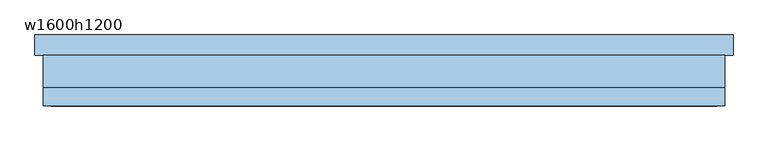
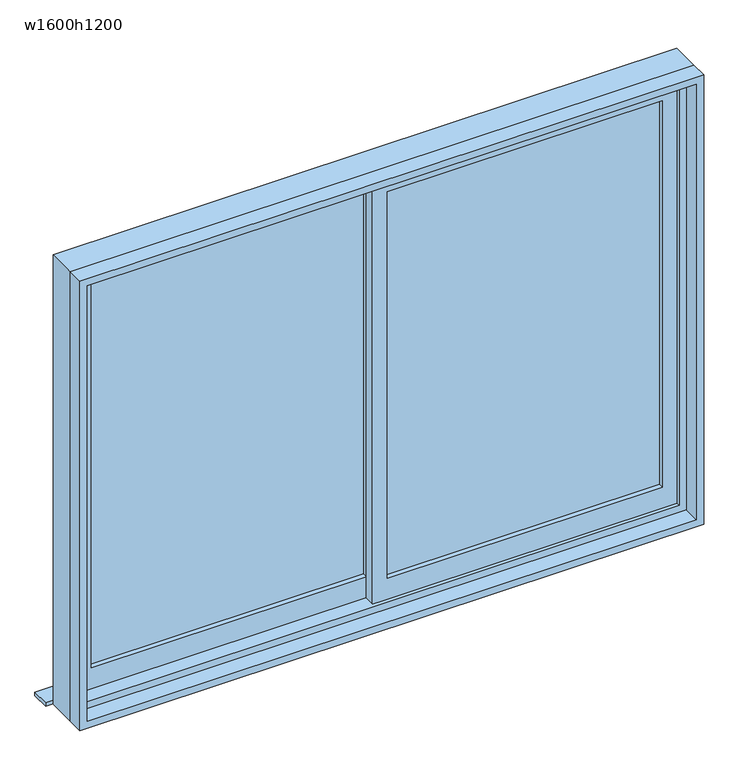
"""IFC4 building model written with IfcOpenShell, lengths in millimetres: window geometry, 引違い腰窓_2枚 : w1600h1200."""

from ifc_helpers import new_model, si_unit, frame, origin, place, context, project, spatial, polyline, outline, extrude, source, transform, mapped, element, save


def w1600h1200_2426852b(model_context):
    return source(origin(), model_context, "Body", "SweptSolid", [
        extrude(outline(polyline([(-20.0, 12.5), (-760.0, 12.5), (-760.0, 17.5), (-20.0, 17.5), (-20.0, 12.5)])), frame((0.0, 0.0, 860.0), z_axis=(0.0, 0.0, 1.0), x_axis=(1.0, 0.0, 0.0)), (0.0, 0.0, 1.0), 1100.0),
        extrude(outline(polyline([(760.0, -17.5), (20.0, -17.5), (20.0, -12.5), (760.0, -12.5), (760.0, -17.5)])), frame((0.0, 0.0, 860.0), z_axis=(0.0, 0.0, 1.0), x_axis=(1.0, 0.0, 0.0)), (0.0, 0.0, 1.0), 1100.0),
        extrude(outline(polyline([(2000.0, -20.0), (800.0, -20.0), (800.0, 800.0), (2000.0, 800.0), (2000.0, -20.0)]), holes=[polyline([(860.0, 760.0), (860.0, 20.0), (1960.0, 20.0), (1960.0, 760.0), (860.0, 760.0)])]), frame((0.0, -30.0, 0.0), z_axis=(0.0, 1.0, 0.0), x_axis=(0.0, 0.0, 1.0)), (0.0, 0.0, 1.0), 30.0),
        extrude(outline(polyline([(2000.0, -800.0), (800.0, -800.0), (800.0, 20.0), (2000.0, 20.0), (2000.0, -800.0)]), holes=[polyline([(860.0, -20.0), (860.0, -760.0), (1960.0, -760.0), (1960.0, -20.0), (860.0, -20.0)])]), frame((0.0, 0.0, 0.0), z_axis=(0.0, 1.0, 0.0), x_axis=(0.0, 0.0, 1.0)), (0.0, 0.0, 1.0), 30.0),
        extrude(outline(polyline([(860.0, 90.0), (860.0, 40.0), (-860.0, 40.0), (-860.0, 90.0), (860.0, 90.0)])), frame((0.0, 0.0, 760.0), z_axis=(0.0, 0.0, 1.0), x_axis=(1.0, 0.0, 0.0)), (0.0, 0.0, 1.0), 10.0),
        extrude(outline(polyline([(2040.0, 840.0), (2040.0, -840.0), (760.0, -840.0), (760.0, 840.0), (2040.0, 840.0)]), holes=[polyline([(780.0, -820.0), (2020.0, -820.0), (2020.0, 820.0), (780.0, 820.0), (780.0, -820.0)])]), frame((0.0, -85.0, 0.0), z_axis=(0.0, 1.0, 0.0), x_axis=(0.0, 0.0, 1.0)), (0.0, 0.0, 1.0), 45.0),
        extrude(outline(polyline([(2040.0, -840.0), (760.0, -840.0), (760.0, 840.0), (2040.0, 840.0), (2040.0, -840.0)]), holes=[polyline([(2000.0, 800.0), (800.0, 800.0), (800.0, -800.0), (2000.0, -800.0), (2000.0, 800.0)])]), frame((0.0, -40.0, 0.0), z_axis=(0.0, 1.0, 0.0), x_axis=(0.0, 0.0, 1.0)), (0.0, 0.0, 1.0), 80.0),
    ])


if __name__ == "__main__":
    model = new_model("IFC4")
    model_context = context("Model", 3, world=origin())
    ifc_project = project(units=[si_unit("LENGTHUNIT", "METRE", prefix="MILLI")], contexts=[model_context])
    site = spatial("IfcSite", under=ifc_project)
    building = spatial("IfcBuilding", under=site)
    placement = place(None, origin())
    w1600h1200_shape = w1600h1200_2426852b(model_context)
    element("IfcWindow", 1, ObjectType="引違い腰窓_2枚 : w1600h1200", at=placement, inside=building, context=model_context, shape_type="MappedRepresentation", body=[
        mapped(w1600h1200_shape, transform((0.0, 0.0, 0.0), x_axis=(1.0, 0.0, 0.0), y_axis=(0.0, 1.0, 0.0), z_axis=(0.0, 0.0, 1.0))),
    ])
    save(model, "model.ifc")
